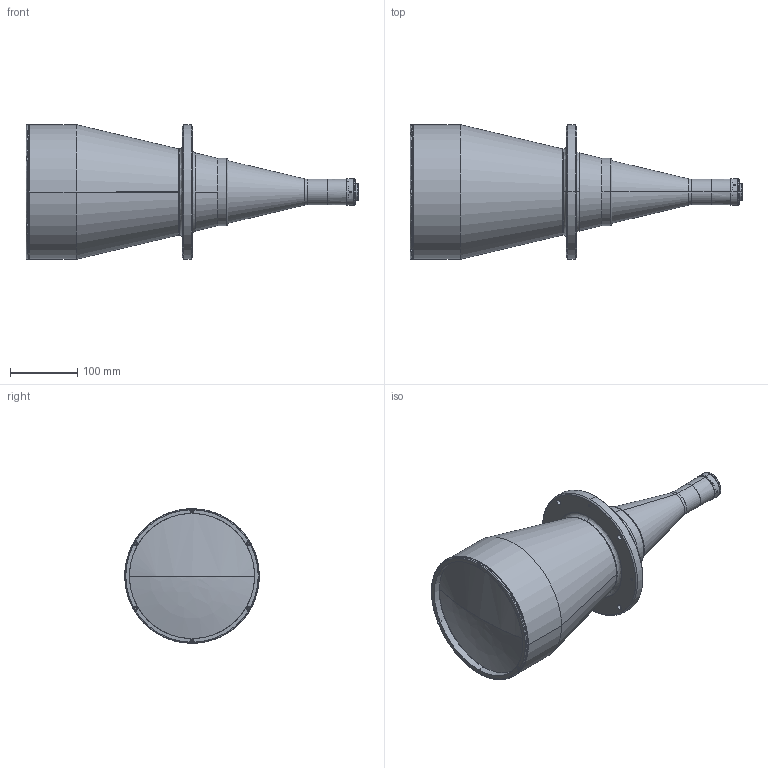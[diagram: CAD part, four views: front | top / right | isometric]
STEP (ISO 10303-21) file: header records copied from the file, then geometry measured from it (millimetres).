
FILE_DESCRIPTION(('LS-TCL-0251'),'2;1');
FILE_NAME('LS-TCL-0251.stp','2026-10-15T21:55:02',('LumaSpec Vision'),('LumaSpec Vision'),'LumaSpec Vision','LumaSpec Vision','');
FILE_SCHEMA(('AUTOMOTIVE_DESIGN { 1 0 10303 214 1 1 1 1 }'));
Length unit declared in the file: millimetre
Products named in the file (199): LumaSpec Vision
Assembly tree (198 placements, depth 2):
  LumaSpec Vision
    LumaSpec Vision
    LumaSpec Vision
    LumaSpec Vision
    LumaSpec Vision
    LumaSpec Vision
    LumaSpec Vision
    LumaSpec Vision
    LumaSpec Vision
    LumaSpec Vision
    LumaSpec Vision
    LumaSpec Vision
    LumaSpec Vision
    LumaSpec Vision
    LumaSpec Vision
    LumaSpec Vision
    LumaSpec Vision
    LumaSpec Vision
    LumaSpec Vision
    LumaSpec Vision
    LumaSpec Vision
    LumaSpec Vision
    LumaSpec Vision
    LumaSpec Vision
    LumaSpec Vision
    LumaSpec Vision
    LumaSpec Vision
    LumaSpec Vision
    LumaSpec Vision
    LumaSpec Vision
    LumaSpec Vision
    LumaSpec Vision
    LumaSpec Vision
    LumaSpec Vision
    LumaSpec Vision
    LumaSpec Vision
    LumaSpec Vision
    LumaSpec Vision
    LumaSpec Vision
    LumaSpec Vision
    LumaSpec Vision
    LumaSpec Vision
    LumaSpec Vision
    LumaSpec Vision
    LumaSpec Vision
    LumaSpec Vision
    LumaSpec Vision
    LumaSpec Vision
    LumaSpec Vision
    LumaSpec Vision
    LumaSpec Vision
    LumaSpec Vision
    LumaSpec Vision
    LumaSpec Vision
    LumaSpec Vision
    LumaSpec Vision
    LumaSpec Vision
    LumaSpec Vision
    LumaSpec Vision
    LumaSpec Vision
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Bounding box: 493.41 x 200 x 200 mm (x, y, z)
Surface area: 282052.2 mm2 (no closed solid volume)
Topology: 0 solids, 198 shells, 198 faces, 3538 edges, 3535 vertices
Faces by surface type: bspline 113, revolution 85
Entity records: 58985 total; most frequent: CARTESIAN_POINT 23835, B_SPLINE_CURVE_WITH_KNOTS 6268, ORIENTED_EDGE 3535, EDGE_CURVE 3535, VERTEX_POINT 3535, SURFACE_CURVE 3535, PCURVE 3535, DEFINITIONAL_REPRESENTATION 3535
